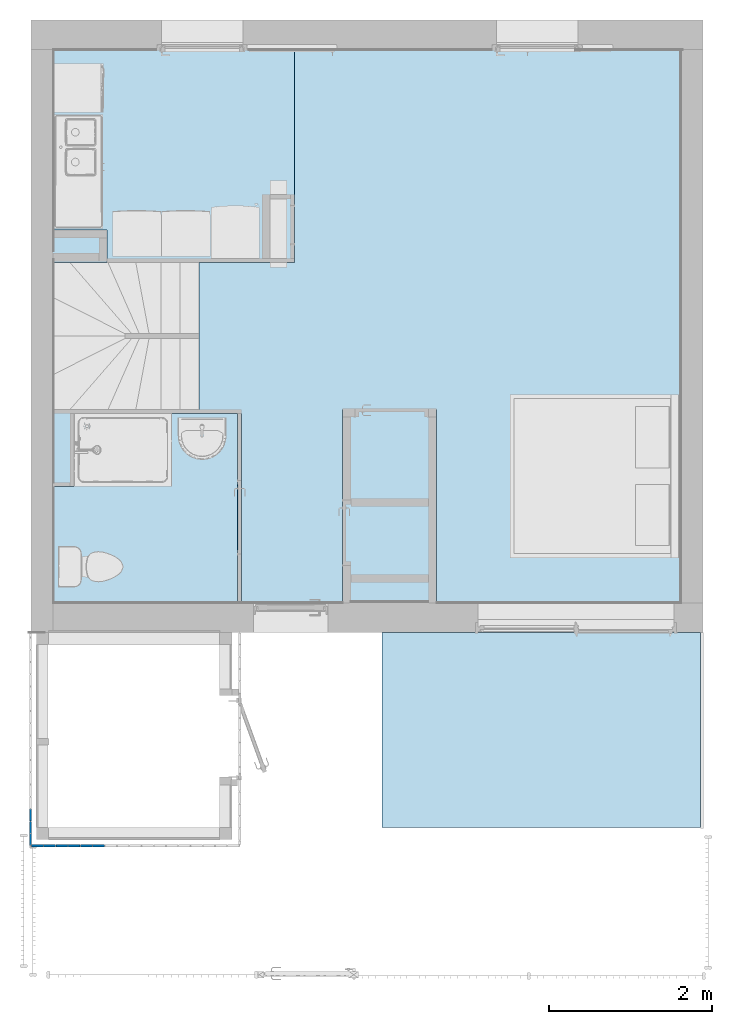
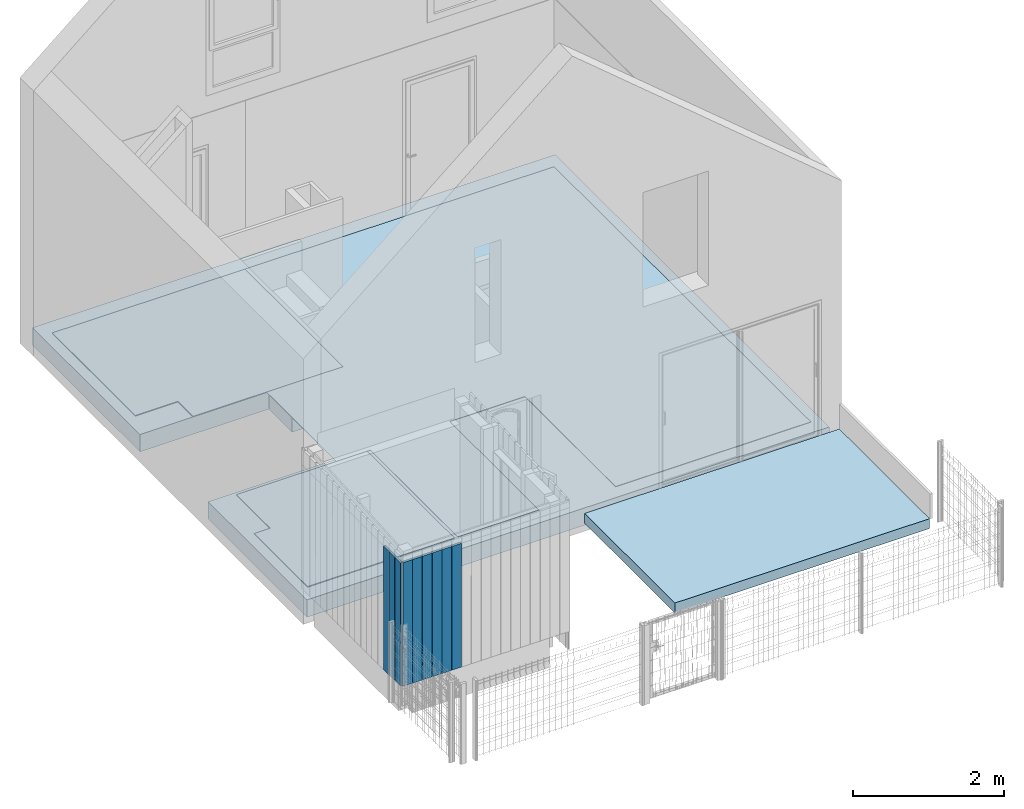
# One storey, part 65 of 81: 9 walls, 5 slabs, 2 elements without a shape of their own.
"""IFC2X3 building model written with IfcOpenShell, lengths in metres."""

from ifc_helpers import new_model, entity, si_unit, converted_unit, derived_unit, direction, frame, frame_2d, origin, place, context, subcontext, project, spatial, polyline, rectangle, outline, extrude, material, layer, layer_set, layer_usage, type_object, element, aggregate, save


model = new_model("IFC2X3")

# Units and contexts
model_context = context("Model", 3, precision=1e-05, world=origin(), true_north=direction((6.12303176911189e-17, 1.0)))
body_context = subcontext(model_context, "Body", "Model", "MODEL_VIEW")
ifc_project = project(units=[si_unit("LENGTHUNIT", "METRE"), si_unit("AREAUNIT", "SQUARE_METRE"), si_unit("VOLUMEUNIT", "CUBIC_METRE"), converted_unit("PLANEANGLEUNIT", "DEGREE", entity("IfcRatioMeasure", 0.0174532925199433), si_unit("PLANEANGLEUNIT", "RADIAN"), dimensions=[0, 0, 0, 0, 0, 0, 0]), si_unit("MASSUNIT", "GRAM", prefix="KILO"), derived_unit("MASSDENSITYUNIT", [(si_unit("MASSUNIT", "GRAM", prefix="KILO"), 1), (si_unit("LENGTHUNIT", "METRE"), -3)]), derived_unit("MOMENTOFINERTIAUNIT", [(si_unit("LENGTHUNIT", "METRE"), 4)]), si_unit("TIMEUNIT", "SECOND"), si_unit("FREQUENCYUNIT", "HERTZ"), si_unit("THERMODYNAMICTEMPERATUREUNIT", "DEGREE_CELSIUS"), derived_unit("THERMALTRANSMITTANCEUNIT", [(si_unit("MASSUNIT", "GRAM", prefix="KILO"), 1), (si_unit("THERMODYNAMICTEMPERATUREUNIT", "KELVIN"), -1), (si_unit("TIMEUNIT", "SECOND"), -3)]), derived_unit("VOLUMETRICFLOWRATEUNIT", [(si_unit("LENGTHUNIT", "METRE"), 3), (si_unit("TIMEUNIT", "SECOND"), -1)]), si_unit("ELECTRICCURRENTUNIT", "AMPERE"), si_unit("ELECTRICVOLTAGEUNIT", "VOLT"), si_unit("POWERUNIT", "WATT"), si_unit("FORCEUNIT", "NEWTON", prefix="KILO"), si_unit("ILLUMINANCEUNIT", "LUX"), si_unit("LUMINOUSFLUXUNIT", "LUMEN"), si_unit("LUMINOUSINTENSITYUNIT", "CANDELA"), derived_unit("USERDEFINED", [(si_unit("MASSUNIT", "GRAM", prefix="KILO"), -1), (si_unit("LENGTHUNIT", "METRE"), -2), (si_unit("TIMEUNIT", "SECOND"), 3), (si_unit("LUMINOUSFLUXUNIT", "LUMEN"), 1)]), derived_unit("LINEARVELOCITYUNIT", [(si_unit("LENGTHUNIT", "METRE"), 1), (si_unit("TIMEUNIT", "SECOND"), -1)]), si_unit("PRESSUREUNIT", "PASCAL"), derived_unit("USERDEFINED", [(si_unit("LENGTHUNIT", "METRE"), -2), (si_unit("MASSUNIT", "GRAM", prefix="KILO"), 1), (si_unit("TIMEUNIT", "SECOND"), -2)]), derived_unit("LINEARFORCEUNIT", [(si_unit("MASSUNIT", "GRAM", prefix="KILO"), 1), (si_unit("LENGTHUNIT", "METRE"), 1), (si_unit("TIMEUNIT", "SECOND"), -2), (si_unit("LENGTHUNIT", "METRE"), -1)]), derived_unit("PLANARFORCEUNIT", [(si_unit("MASSUNIT", "GRAM", prefix="KILO"), 1), (si_unit("LENGTHUNIT", "METRE"), 1), (si_unit("TIMEUNIT", "SECOND"), -2), (si_unit("LENGTHUNIT", "METRE"), -2)])], contexts=[model_context])

# Site, building, storey
site_placement = place(None, origin())
site = spatial("IfcSite", under=ifc_project, at=site_placement, Name="Surface", CompositionType="ELEMENT")
building_placement = place(site_placement, origin())
building = spatial("IfcBuilding", under=site, at=building_placement, CompositionType="ELEMENT")
storey_placement = place(building_placement, origin())
storey = spatial("IfcBuildingStorey", under=building, at=storey_placement, Name="01 RDC", CompositionType="ELEMENT", Elevation=-1.94916083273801e-14)

# Slabs
ifc_material_1 = material(Name="Maçonnerie - Béton")
ifc_layer_1 = layer(ifc_material_1, 0.28)
ifc_layer_set_1 = layer_set([ifc_layer_1], Name="Sol:Dalle en béton - 28")
ifc_layer_usage_1 = layer_usage(ifc_layer_set_1, "AXIS3", "POSITIVE", 0.0)
slab_type_1 = type_object("IfcSlabType", Name="Sol:Dalle en béton - 28", PredefinedType="FLOOR", material=ifc_layer_set_1)
slab_1_placement = place(storey_placement, origin())
element("IfcSlab", 1, at=slab_1_placement, inside=storey, type_object=slab_type_1, material=ifc_layer_usage_1, Name="Sol:Dalle en béton - 28", ObjectType="Sol:Dalle en béton - 28", PredefinedType="FLOOR", context=body_context, shape_type="SweptSolid", body=[
    extrude(outline(polyline([(0.793256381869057, -2.43764317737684), (3.64225638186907, -2.43764317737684), (3.64225638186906, 5.55235682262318), (-3.61674361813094, 5.55235682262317), (-3.61674361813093, -2.43243927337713), (-0.998879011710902, -2.43243927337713), (-0.998879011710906, -0.214631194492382), (0.180109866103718, -0.214631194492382), (0.180109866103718, -0.467643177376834), (0.79325638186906, -0.467643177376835), (0.793256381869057, -2.43764317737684)])), frame((8.02420476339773, 0.0407826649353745, -0.00999999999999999), z_axis=(0.0, 0.0, -1.0), x_axis=(0.0, 1.0, 0.0)), (0.0, 0.0, 1.0), 0.28),
])
ifc_material_2 = material(Name="Maçonnerie - Béton avec carrelage")
ifc_layer_2 = layer(ifc_material_2, 0.16)
ifc_layer_set_2 = layer_set([ifc_layer_2], Name="Sol:Dalle en béton - 16 Terasse")
ifc_layer_usage_2 = layer_usage(ifc_layer_set_2, "AXIS3", "POSITIVE", 0.0)
slab_type_2 = type_object("IfcSlabType", Name="Sol:Dalle en béton - 16 Terasse", PredefinedType="FLOOR", material=ifc_layer_set_2)
slab_2_placement = place(storey_placement, origin())
element("IfcSlab", 2, at=slab_2_placement, inside=storey, type_object=slab_type_2, material=ifc_layer_usage_2, Name="Sol:Dalle en béton - 16 Terasse", ObjectType="Sol:Dalle en béton - 16 Terasse", PredefinedType="FLOOR", context=body_context, shape_type="SweptSolid", body=[
    extrude(rectangle(XDim=2.39000000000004, YDim=3.89499999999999, at=frame_2d((-3.5527136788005e-15, 0.0), x_axis=(1.0, 0.0))), frame((11.7140615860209, -4.89096095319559, 0.0), z_axis=(0.0, 0.0, -1.0), x_axis=(0.0, 1.0, 0.0)), (0.0, 0.0, 1.0), 0.16),
])
ifc_layer_3 = layer(ifc_material_2, 0.005)
ifc_material_3 = material(Name="Asphalte, bitume")
ifc_layer_4 = layer(ifc_material_3, 0.005)
ifc_layer_set_3 = layer_set([ifc_layer_3, ifc_layer_4], Name="Sol:Chappe 10 carrelage 200*200")
ifc_layer_usage_3 = layer_usage(ifc_layer_set_3, "AXIS3", "POSITIVE", 0.0)
slab_type_3 = type_object("IfcSlabType", Name="Sol:Chappe 10 carrelage 200*200", PredefinedType="FLOOR", material=ifc_layer_set_3)
slab_3_placement = place(storey_placement, origin())
element("IfcSlab", 3, at=slab_3_placement, inside=storey, type_object=slab_type_3, material=ifc_layer_usage_3, Name="Sol:Chappe 10 carrelage 200*200", ObjectType="Sol:Chappe 10 carrelage 200*200", PredefinedType="FLOOR", context=body_context, shape_type="SweptSolid", body=[
    extrude(outline(polyline([(-0.600000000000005, -1.19833333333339), (1.60000000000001, -1.19833333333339), (1.60000000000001, 1.74666666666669), (-1.0, 1.74666666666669), (-1.0, -0.548333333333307), (-0.600000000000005, -0.548333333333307), (-0.600000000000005, -1.19833333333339)])), frame((6.9448949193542, 1.83403904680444, 0.0), z_axis=(0.0, 0.0, -1.0), x_axis=(0.0, 1.0, 0.0)), (0.0, 0.0, 1.0), 0.01),
])
ifc_layer_5 = layer(ifc_material_1, 0.005)
ifc_layer_set_4 = layer_set([ifc_layer_5], Name="Sol:Chappe 10 PVC-TX SELECTION 100*1500 2")
ifc_layer_usage_4 = layer_usage(ifc_layer_set_4, "AXIS3", "POSITIVE", 0.0)
slab_type_4 = type_object("IfcSlabType", Name="Sol:Chappe 10 PVC-TX SELECTION 100*1500 2", PredefinedType="FLOOR", material=ifc_layer_set_4)
slab_4_placement = place(storey_placement, origin())
element("IfcSlab", 4, at=slab_4_placement, inside=storey, type_object=slab_type_4, material=ifc_layer_usage_4, Name="Sol:Chappe 10 PVC-TX SELECTION 100*1500 2", ObjectType="Sol:Chappe 10 PVC-TX SELECTION 100*1500 2", PredefinedType="FLOOR", context=body_context, shape_type="SweptSolid", body=[
    extrude(outline(polyline([(-0.281666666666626, -2.04367077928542), (1.56833333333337, -2.04367077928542), (1.56833333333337, -0.872265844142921), (4.16833333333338, -0.872265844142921), (4.16833333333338, 3.85273415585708), (-2.63166666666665, 3.85273415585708), (-2.63166666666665, 0.867734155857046), (-0.231666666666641, 0.867734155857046), (-0.231666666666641, -0.282265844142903), (-2.59166666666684, -0.282265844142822), (-2.59166666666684, -1.52226584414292), (-0.281666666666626, -1.52226584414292), (-0.281666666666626, -2.04367077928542)])), frame((9.56382743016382, -0.734294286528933, 0.0), z_axis=(0.0, 0.0, -1.0), x_axis=(0.0, 1.0, 0.0)), (0.0, 0.0, 1.0), 0.005),
])
ifc_layer_usage_5 = layer_usage(ifc_layer_set_3, "AXIS3", "POSITIVE", 0.0)
slab_type_5 = type_object("IfcSlabType", Name="Sol:Chappe 10 carrelage 200*200", PredefinedType="FLOOR", material=ifc_layer_set_3)
slab_5_placement = place(storey_placement, origin())
element("IfcSlab", 5, at=slab_5_placement, inside=storey, type_object=slab_type_5, material=ifc_layer_usage_5, Name="Sol:Chappe 10 carrelage 200*200", ObjectType="Sol:Chappe 10 carrelage 200*200", PredefinedType="FLOOR", context=body_context, shape_type="SweptSolid", body=[
    extrude(outline(polyline([(-1.24166666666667, -0.830000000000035), (0.173333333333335, -0.830000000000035), (0.173333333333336, -0.58500000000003), (1.06833333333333, -0.58500000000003), (1.06833333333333, 1.41500000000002), (-1.24166666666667, 1.41500000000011), (-1.24166666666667, -0.830000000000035)])), frame((6.57656158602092, -2.08429428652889, 0.0), z_axis=(0.0, 0.0, -1.0), x_axis=(0.0, 1.0, 0.0)), (0.0, 0.0, 1.0), 0.01),
])

# Curtain wall, walls
curtain_wall_type = type_object("IfcCurtainWallType", Name="Mur-rideau:1m x 2m", PredefinedType="NOTDEFINED")
curtain_wall_1_placement = place(storey_placement, origin())
curtain_wall_1 = element("IfcCurtainWall", 6, at=curtain_wall_1_placement, inside=storey, type_object=curtain_wall_type, Name="Mur-rideau:1m x 2m", ObjectType="Mur-rideau:1m x 2m")
ifc_material_4 = material(Name="Résineux, bois de construction")
ifc_layer_6 = layer(ifc_material_4, 0.03)
ifc_layer_set_5 = layer_set([ifc_layer_6], Name="Mur-rideau:1m x 2m")
ifc_layer_usage_6 = layer_usage(ifc_layer_set_5, "AXIS2", "POSITIVE", -0.015)
wall_type = type_object("IfcWallType", Name="Mur de base:Panneau Triply 30 mm", PredefinedType="NOTDEFINED", material=ifc_layer_set_5)
wall_1_placement = place(storey_placement, frame((5.45983615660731, -6.30471095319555, 0.3), z_axis=(0.0, 0.0, 1.0), x_axis=(0.0, 1.0, 0.0)))
wall_1 = element("IfcWallStandardCase", 7, at=wall_1_placement, type_object=wall_type, material=ifc_layer_usage_6, Name="Mur de base:Panneau Triply 30 mm", ObjectType="Mur de base:Panneau Triply 30 mm", context=body_context, shape_type="SweptSolid", body=[
    extrude(rectangle(XDim=0.1450000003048, YDim=0.0299999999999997, at=frame_2d((0.0725000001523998, 1.24032728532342e-16), x_axis=(-1.0, 0.0))), origin(), (0.0, 0.0, 1.0), 2.0),
])
ifc_layer_usage_7 = layer_usage(ifc_layer_set_5, "AXIS2", "POSITIVE", -0.015)
wall_2_placement = place(storey_placement, frame((5.45983615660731, -6.15471095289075, 0.3), z_axis=(0.0, 0.0, 1.0), x_axis=(0.0, 1.0, 0.0)))
wall_2 = element("IfcWallStandardCase", 8, at=wall_2_placement, type_object=wall_type, material=ifc_layer_usage_7, Name="Mur de base:Panneau Triply 30 mm", ObjectType="Mur de base:Panneau Triply 30 mm", context=body_context, shape_type="SweptSolid", body=[
    extrude(rectangle(XDim=0.144999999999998, YDim=0.0299999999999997, at=frame_2d((0.0724999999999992, 1.24032728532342e-16), x_axis=(-1.0, 0.0))), origin(), (0.0, 0.0, 1.0), 2.0),
])
ifc_layer_usage_8 = layer_usage(ifc_layer_set_5, "AXIS2", "POSITIVE", -0.015)
wall_3_placement = place(storey_placement, frame((5.45983615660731, -6.00471095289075, 0.3), z_axis=(0.0, 0.0, 1.0), x_axis=(0.0, 1.0, 0.0)))
wall_3 = element("IfcWallStandardCase", 9, at=wall_3_placement, type_object=wall_type, material=ifc_layer_usage_8, Name="Mur de base:Panneau Triply 30 mm", ObjectType="Mur de base:Panneau Triply 30 mm", context=body_context, shape_type="SweptSolid", body=[
    extrude(rectangle(XDim=0.145, YDim=0.0299999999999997, at=frame_2d((0.0724999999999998, -4.17200995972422e-16), x_axis=(-1.0, 0.0))), origin(), (0.0, 0.0, 1.0), 2.0),
])
aggregate(curtain_wall_1, [wall_1, wall_2, wall_3])

curtain_wall_2_placement = place(storey_placement, origin())
curtain_wall_2 = element("IfcCurtainWall", 10, at=curtain_wall_2_placement, inside=storey, type_object=curtain_wall_type, Name="Mur-rideau:1m x 2m", ObjectType="Mur-rideau:1m x 2m")
ifc_layer_usage_9 = layer_usage(ifc_layer_set_5, "AXIS2", "POSITIVE", -0.015)
wall_4_placement = place(storey_placement, frame((6.36656158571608, -6.30971095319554, 0.3), z_axis=(0.0, 0.0, 1.0), x_axis=(-1.0, 0.0, 0.0)))
wall_4 = element("IfcWallStandardCase", 11, at=wall_4_placement, type_object=wall_type, material=ifc_layer_usage_9, Name="Mur de base:Panneau Triply 30 mm", ObjectType="Mur de base:Panneau Triply 30 mm", context=body_context, shape_type="SweptSolid", body=[
    extrude(rectangle(XDim=0.144999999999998, YDim=0.0299999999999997, at=frame_2d((0.0724999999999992, 2.25514051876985e-16), x_axis=(-1.0, 0.0))), origin(), (0.0, 0.0, 1.0), 1.99999999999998),
])
ifc_layer_usage_10 = layer_usage(ifc_layer_set_5, "AXIS2", "POSITIVE", -0.015)
wall_5_placement = place(storey_placement, frame((6.21656158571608, -6.30971095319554, 0.3), z_axis=(0.0, 0.0, 1.0), x_axis=(-1.0, 0.0, 0.0)))
wall_5 = element("IfcWallStandardCase", 12, at=wall_5_placement, type_object=wall_type, material=ifc_layer_usage_10, Name="Mur de base:Panneau Triply 30 mm", ObjectType="Mur de base:Panneau Triply 30 mm", context=body_context, shape_type="SweptSolid", body=[
    extrude(rectangle(XDim=0.145, YDim=0.0299999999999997, at=frame_2d((0.0724999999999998, 2.25514051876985e-16), x_axis=(-1.0, 0.0))), origin(), (0.0, 0.0, 1.0), 1.99999999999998),
])
ifc_layer_usage_11 = layer_usage(ifc_layer_set_5, "AXIS2", "POSITIVE", -0.015)
wall_6_placement = place(storey_placement, frame((6.06656158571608, -6.30971095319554, 0.3), z_axis=(0.0, 0.0, 1.0), x_axis=(-1.0, 0.0, 0.0)))
wall_6 = element("IfcWallStandardCase", 13, at=wall_6_placement, type_object=wall_type, material=ifc_layer_usage_11, Name="Mur de base:Panneau Triply 30 mm", ObjectType="Mur de base:Panneau Triply 30 mm", context=body_context, shape_type="SweptSolid", body=[
    extrude(rectangle(XDim=0.144999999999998, YDim=0.0299999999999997, at=frame_2d((0.0724999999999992, -3.15719672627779e-16), x_axis=(-1.0, 0.0))), origin(), (0.0, 0.0, 1.0), 1.99999999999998),
])
ifc_layer_usage_12 = layer_usage(ifc_layer_set_5, "AXIS2", "POSITIVE", -0.015)
wall_7_placement = place(storey_placement, frame((5.91656158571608, -6.30971095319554, 0.3), z_axis=(0.0, 0.0, 1.0), x_axis=(-1.0, 0.0, 0.0)))
wall_7 = element("IfcWallStandardCase", 14, at=wall_7_placement, type_object=wall_type, material=ifc_layer_usage_12, Name="Mur de base:Panneau Triply 30 mm", ObjectType="Mur de base:Panneau Triply 30 mm", context=body_context, shape_type="SweptSolid", body=[
    extrude(rectangle(XDim=0.145, YDim=0.0299999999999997, at=frame_2d((0.0724999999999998, 2.25514051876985e-16), x_axis=(-1.0, 0.0))), origin(), (0.0, 0.0, 1.0), 1.99999999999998),
])
ifc_layer_usage_13 = layer_usage(ifc_layer_set_5, "AXIS2", "POSITIVE", -0.015)
wall_8_placement = place(storey_placement, frame((5.76656158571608, -6.30971095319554, 0.3), z_axis=(0.0, 0.0, 1.0), x_axis=(-1.0, 0.0, 0.0)))
wall_8 = element("IfcWallStandardCase", 15, at=wall_8_placement, type_object=wall_type, material=ifc_layer_usage_13, Name="Mur de base:Panneau Triply 30 mm", ObjectType="Mur de base:Panneau Triply 30 mm", context=body_context, shape_type="SweptSolid", body=[
    extrude(rectangle(XDim=0.144999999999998, YDim=0.0299999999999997, at=frame_2d((0.0724999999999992, -3.15719672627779e-16), x_axis=(-1.0, 0.0))), origin(), (0.0, 0.0, 1.0), 1.99999999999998),
])
ifc_layer_usage_14 = layer_usage(ifc_layer_set_5, "AXIS2", "POSITIVE", -0.015)
wall_9_placement = place(storey_placement, frame((5.61656158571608, -6.30971095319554, 0.3), z_axis=(0.0, 0.0, 1.0), x_axis=(-1.0, 0.0, 0.0)))
wall_9 = element("IfcWallStandardCase", 16, at=wall_9_placement, type_object=wall_type, material=ifc_layer_usage_14, Name="Mur de base:Panneau Triply 30 mm", ObjectType="Mur de base:Panneau Triply 30 mm", context=body_context, shape_type="SweptSolid", body=[
    extrude(rectangle(XDim=0.145, YDim=0.0299999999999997, at=frame_2d((0.0724999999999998, 2.25514051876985e-16), x_axis=(-1.0, 0.0))), origin(), (0.0, 0.0, 1.0), 1.99999999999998),
])
aggregate(curtain_wall_2, [wall_4, wall_5, wall_6, wall_7, wall_8, wall_9])

save(model, "model.ifc")
